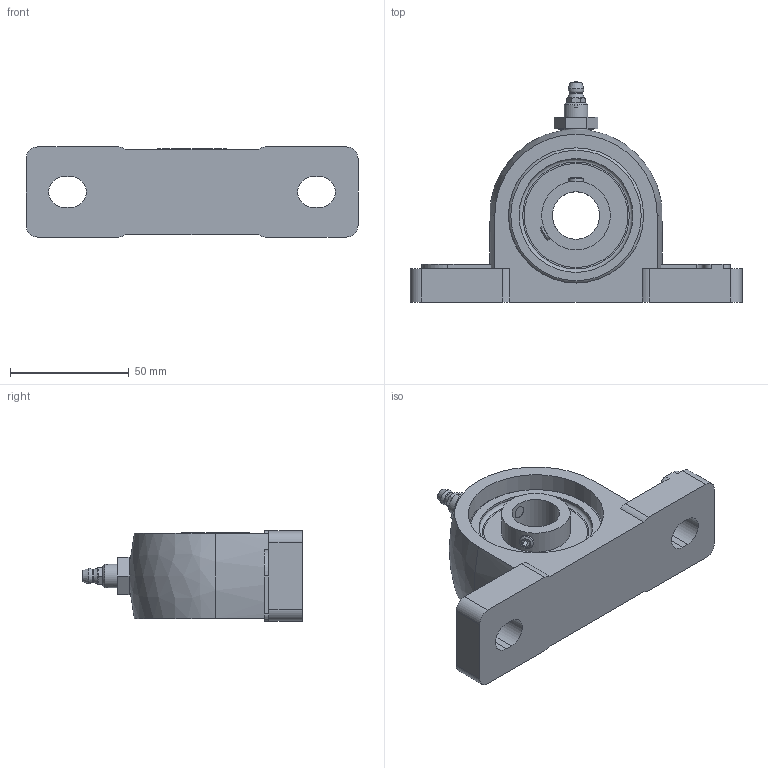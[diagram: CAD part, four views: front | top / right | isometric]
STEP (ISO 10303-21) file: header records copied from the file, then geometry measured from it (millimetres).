
FILE_DESCRIPTION((''),'2;1');
FILE_NAME('\\Ts-tgl068\J-Cad-D-BASE\00.3DCADデータ作成フォルダ\01.ピロー形\UCEP200\UCEP200.stp','2014-04-18T09:40:12',('btec_1106_2'),(''),'Autodesk Inventor 2012','Autodesk Inventor 2012','');
FILE_SCHEMA(('AUTOMOTIVE_DESIGN { 1 0 10303 214 1 1 1 1 }'));
Length unit declared in the file: millimetre
Products named in the file (7): UCEP200; EP204; AU110-1; EC204; GU1; シリーズUC [番手=204 ul]; M10X1
Assembly tree (6 placements, depth 2):
  UCEP200
    EP204
    AU110-1
    EC204
    GU1
    シリーズUC [番手=204 ul]
    M10X1
Bounding box: 140 x 92.89 x 38 mm (x, y, z)
Volume: 156451 mm3; surface area: 46938 mm2
Topology: 6 solids, 6 shells, 159 faces, 391 edges, 254 vertices
Faces by surface type: plane 83, cylinder 44, cone 19, torus 8, sphere 4, bspline 1
Full cylindrical faces by diameter (mm): 2 x1, 5 x1, 5.359 x1, 6 x2, 6.35 x1, 8.376 x2, 10 x1, 20 x1, 29 x2, 48 x2, 57 x2
Entity records: 4931 total; most frequent: CARTESIAN_POINT 1104, DIRECTION 764, ORIENTED_EDGE 684, EDGE_CURVE 342, AXIS2_PLACEMENT_3D 293, VERTEX_POINT 240, EDGE_LOOP 220, VECTOR 178
